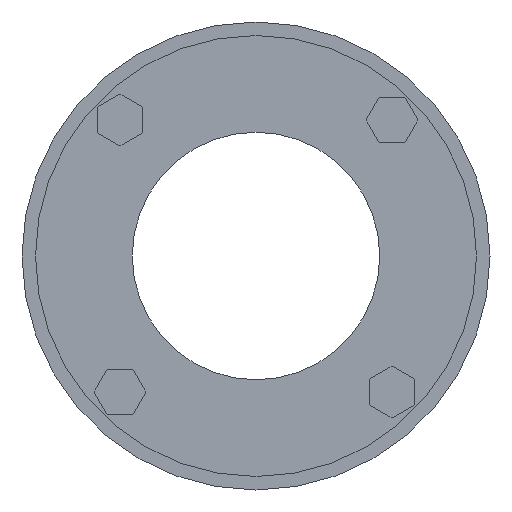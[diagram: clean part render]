
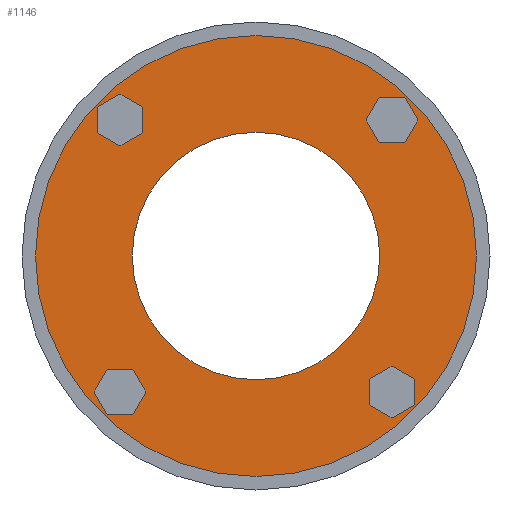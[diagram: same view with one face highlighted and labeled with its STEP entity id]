
A CAD part, left-side view. The second image highlights one B-rep face of the part: STEP entity #1146.
In plain terms, the highlighted planar face has unit normal (-1, 0, 0).
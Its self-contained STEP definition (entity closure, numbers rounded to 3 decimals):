
#275 = CARTESIAN_POINT ( 'NONE',  ( 0., 0., -49. ) ) ;
#330 = DIRECTION ( 'NONE',  ( 0., 0., 1. ) ) ;
#331 = DIRECTION ( 'NONE',  ( -1., 0., 0. ) ) ;
#332 = CARTESIAN_POINT ( 'NONE',  ( 0., 0., 0. ) ) ;
#333 = AXIS2_PLACEMENT_3D ( 'NONE', #332, #331, #330 ) ;
#346 = CARTESIAN_POINT ( 'NONE',  ( 0., 0., 49. ) ) ;
#366 = CIRCLE ( 'NONE', #333, 49. ) ;
#895 = EDGE_LOOP ( 'NONE', ( #963, #966 ) ) ;
#963 = ORIENTED_EDGE ( 'NONE', *, *, #964, .F. ) ;
#964 = EDGE_CURVE ( 'NONE', #1752, #1725, #2461, .T. ) ;
#966 = ORIENTED_EDGE ( 'NONE', *, *, #1757, .F. ) ;
#1070 = EDGE_LOOP ( 'NONE', ( #1147, #1149 ) ) ;
#1115 = EDGE_CURVE ( 'NONE', #1822, #1865, #2273, .T. ) ;
#1146 = ADVANCED_FACE ( 'NONE', ( #2252, #2251 ), #2250, .F. ) ;
#1147 = ORIENTED_EDGE ( 'NONE', *, *, #1840, .T. ) ;
#1149 = ORIENTED_EDGE ( 'NONE', *, *, #1115, .T. ) ;
#1725 = VERTEX_POINT ( 'NONE', #2638 ) ;
#1752 = VERTEX_POINT ( 'NONE', #2697 ) ;
#1757 = EDGE_CURVE ( 'NONE', #1725, #1752, #2695, .T. ) ;
#1822 = VERTEX_POINT ( 'NONE', #275 ) ;
#1840 = EDGE_CURVE ( 'NONE', #1865, #1822, #366, .T. ) ;
#1865 = VERTEX_POINT ( 'NONE', #346 ) ;
#2006 = DIRECTION ( 'NONE',  ( 0., 0., 1. ) ) ;
#2007 = DIRECTION ( 'NONE',  ( -1., 0., 0. ) ) ;
#2008 = CARTESIAN_POINT ( 'NONE',  ( 0., 0., 0. ) ) ;
#2013 = AXIS2_PLACEMENT_3D ( 'NONE', #2008, #2007, #2006 ) ;
#2246 = DIRECTION ( 'NONE',  ( 0., 0., -1. ) ) ;
#2247 = DIRECTION ( 'NONE',  ( 1., 0., 0. ) ) ;
#2248 = CARTESIAN_POINT ( 'NONE',  ( 0., 0., 0. ) ) ;
#2249 = AXIS2_PLACEMENT_3D ( 'NONE', #2248, #2247, #2246 ) ;
#2250 = PLANE ( 'NONE',  #2249 ) ;
#2251 = FACE_BOUND ( 'NONE', #895, .T. ) ;
#2252 = FACE_OUTER_BOUND ( 'NONE', #1070, .T. ) ;
#2269 = DIRECTION ( 'NONE',  ( 0., 0., 1. ) ) ;
#2270 = DIRECTION ( 'NONE',  ( -1., 0., 0. ) ) ;
#2271 = CARTESIAN_POINT ( 'NONE',  ( 0., 0., 0. ) ) ;
#2272 = AXIS2_PLACEMENT_3D ( 'NONE', #2271, #2270, #2269 ) ;
#2273 = CIRCLE ( 'NONE', #2272, 49. ) ;
#2457 = DIRECTION ( 'NONE',  ( 0., 0., 1. ) ) ;
#2458 = DIRECTION ( 'NONE',  ( -1., 0., 0. ) ) ;
#2459 = CARTESIAN_POINT ( 'NONE',  ( 0., 0., 0. ) ) ;
#2460 = AXIS2_PLACEMENT_3D ( 'NONE', #2459, #2458, #2457 ) ;
#2461 = CIRCLE ( 'NONE', #2460, 27.5 ) ;
#2638 = CARTESIAN_POINT ( 'NONE',  ( 0., 0., -27.5 ) ) ;
#2695 = CIRCLE ( 'NONE', #2013, 27.5 ) ;
#2697 = CARTESIAN_POINT ( 'NONE',  ( 0., 0., 27.5 ) ) ;
